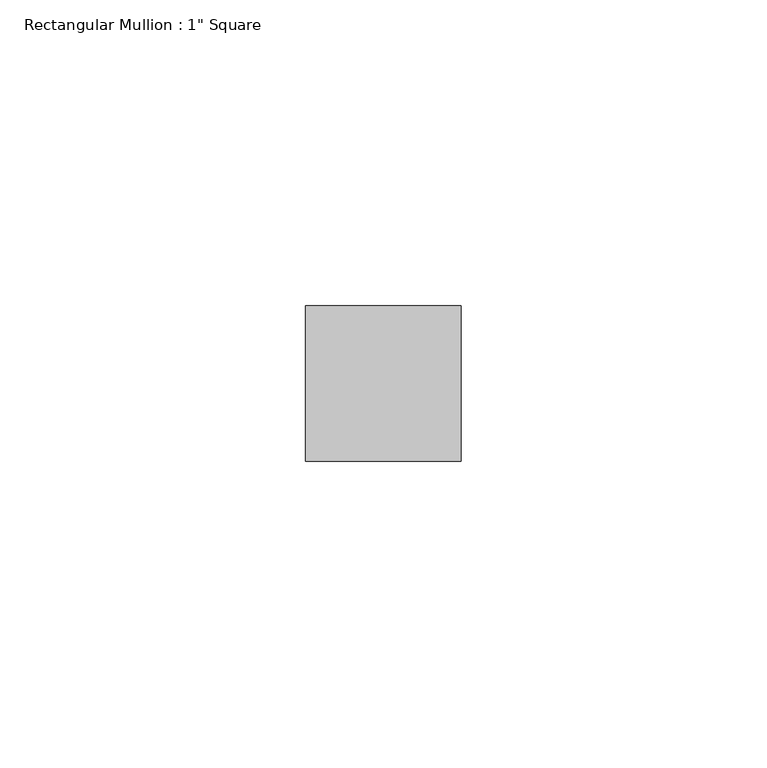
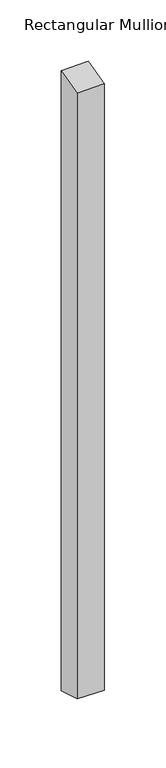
"""IFC4 building model written with IfcOpenShell, lengths in millimetres: member geometry."""

from ifc_helpers import new_model, si_unit, origin, place, context, project, spatial, faceted_brep, source, transform, mapped, element, save


def member_8df4d526(model_context):
    return source(origin(), model_context, "Body", "Brep", [
        faceted_brep([(-25.4, 12.7, 2.8433833), (0.0, 12.7, 3.3323324), (0.0, 12.7, -613.2985004), (-25.4, 12.7, -612.7558239), (-25.4, -12.7, -3.8212815), (-25.4, -12.7, -605.3588232), (0.0, -12.7, -3.3323324), (0.0, -12.7, -605.9014996)], [[[0, 1, 2, 3]], [[4, 0, 3, 5]], [[6, 4, 5, 7]], [[1, 6, 7, 2]], [[1, 0, 4, 6]], [[2, 7, 5, 3]]]),
    ])


if __name__ == "__main__":
    model = new_model("IFC4")
    model_context = context("Model", 3, world=origin())
    ifc_project = project(units=[si_unit("LENGTHUNIT", "METRE", prefix="MILLI")], contexts=[model_context])
    site = spatial("IfcSite", under=ifc_project)
    building = spatial("IfcBuilding", under=site)
    placement = place(None, origin())
    member_shape = member_8df4d526(model_context)
    element("IfcMember", 1, ObjectType="Rectangular Mullion : 1\" Square", at=placement, inside=building, context=model_context, shape_type="MappedRepresentation", body=[
        mapped(member_shape, transform((0.0, 0.0, 0.0), x_axis=(1.0, 0.0, 0.0), y_axis=(0.0, 1.0, 0.0), z_axis=(0.0, 0.0, 1.0))),
    ])
    save(model, "model.ifc")
